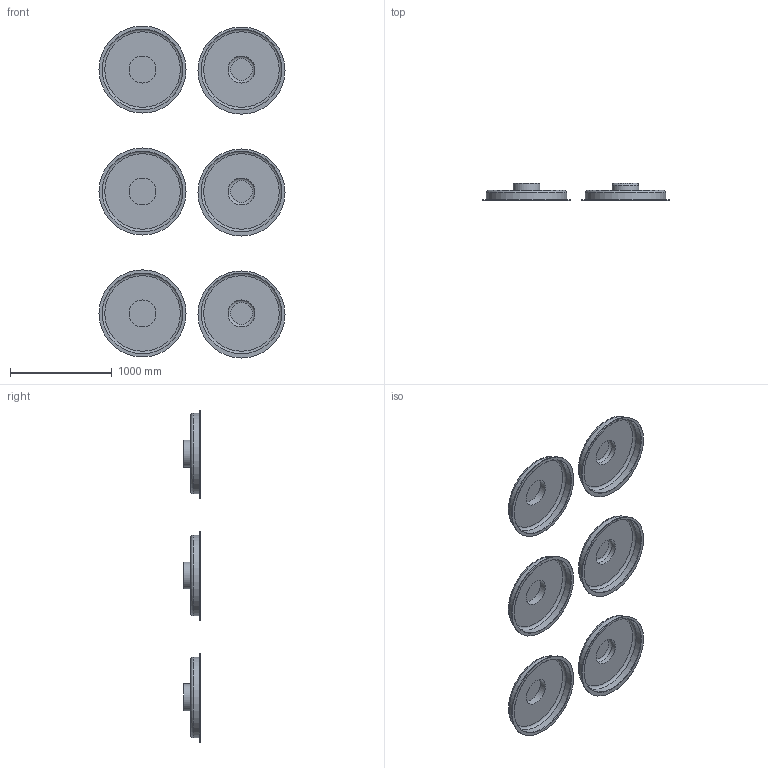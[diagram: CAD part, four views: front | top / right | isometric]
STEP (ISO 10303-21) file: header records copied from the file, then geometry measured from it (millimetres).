
FILE_DESCRIPTION(/* description */ (''),/* implementation_level */ '2;1');
FILE_NAME(/* name */ 'L:\DSGN\Revit Content\Mechanical Components\BAC\R2016\TSDC-II\TSDC-II-NH3-2x3-Front.stp',/* time_stamp */ '2019-03-27T13:42:00+01:00',/* author */ ('jvandermieren'),/* organization */ (''),/* preprocessor_version */ 'ST-DEVELOPER v16.5',/* originating_system */ 'Autodesk Inventor 2017',/* authorisation */ '');
FILE_SCHEMA (('AUTOMOTIVE_DESIGN { 1 0 10303 214 3 1 1 }'));
Length unit declared in the file: inch
Products named in the file (1): TSDC-II-NH3-2X3 Front
Bounding box: 1830.83 x 166.37 x 3267.63 mm (x, y, z)
Volume: 3075828.6 mm3; surface area: 11627794 mm2
Topology: 6 solids, 13 shells, 57 faces, 84 edges, 51 vertices
Faces by surface type: plane 24, cylinder 24, torus 9
Full cylindrical faces by diameter (mm): 265.176 x6, 794.766 x12, 856.996 x6
Entity records: 5200 total; most frequent: DIRECTION 852, CARTESIAN_POINT 848, ORIENTED_EDGE 758, EDGE_CURVE 373, EDGE_LOOP 300, LINE 294, VECTOR 294, AXIS2_PLACEMENT_3D 279
